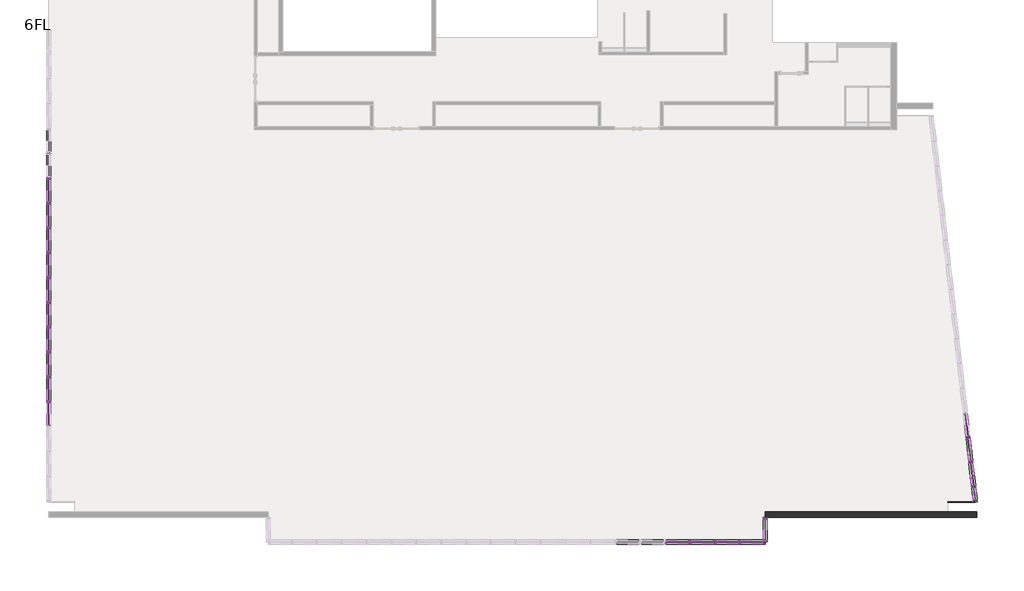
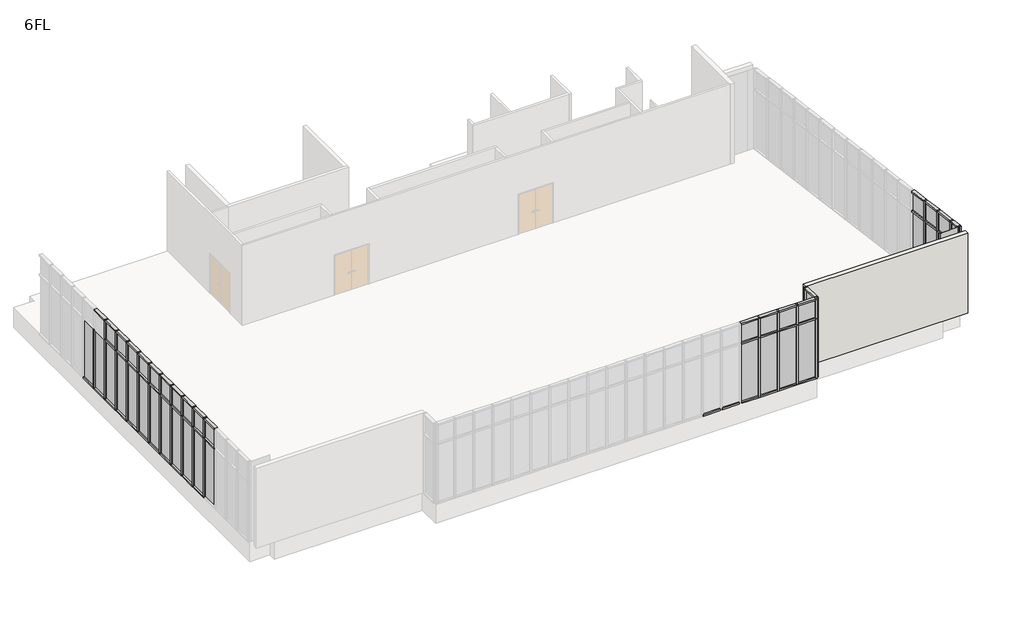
# One storey, part 2 of 4: 101 members, 42 plates, 1 wall.
"""IFC4 building model written with IfcOpenShell, lengths in millimetres."""

from ifc_helpers import new_model, si_unit, frame, origin, place, context, project, spatial, polyline, outline, extrude, transform, mapped, element, save
from components import member_70x150_cdd4dcf9, member_70x150_9a135ce4, member_70x150_66cf63de, member_70x150_26475b18, member_70x150_ad4265bc, member_70x150_e0eddb57, member_70x150_1b280ac3, member_70x150_76429c73, member_70x150_98b0aed0, member_70x150_87b27eb4, plate_d1366ea1, plate_5a60b334, plate_28587fd3, plate_4b01b467, plate_396bcf3c, plate_83f08a3e, plate_de90d239, plate_46ceffe4

model = new_model("IFC4")

# Units and contexts
model_context = context("Model", 3, world=origin())
ifc_project = project(units=[si_unit("LENGTHUNIT", "METRE", prefix="MILLI")], contexts=[model_context])

# Site, building, storey
site = spatial("IfcSite", under=ifc_project)
building = spatial("IfcBuilding", under=site)
storey = spatial("IfcBuildingStorey", under=building, Name="6FL", Elevation=20600.0)

# Members
placement = place(None, origin())
member_70x150_shape = member_70x150_cdd4dcf9(model_context)
element("IfcMember", 1, ObjectType="長方形のマリオン : 70x150", at=placement, inside=storey, context=model_context, shape_type="MappedRepresentation", body=[
    mapped(member_70x150_shape, transform((-5230.9784025, -4550.3131013, 20600.0), x_axis=(-1.0, 0.0, 0.0), y_axis=(0.0, 1.0, 0.0), z_axis=(0.0, 0.0, -1.0))),
])
element("IfcMember", 2, ObjectType="長方形のマリオン : 70x150", at=placement, inside=storey, context=model_context, shape_type="MappedRepresentation", body=[
    mapped(member_70x150_shape, transform((-4330.9784025, -4550.3131013, 20600.0), x_axis=(-1.0, 0.0, 0.0), y_axis=(0.0, 1.0, 0.0), z_axis=(0.0, 0.0, -1.0))),
])
element("IfcMember", 3, ObjectType="長方形のマリオン : 70x150", at=placement, inside=storey, context=model_context, shape_type="MappedRepresentation", body=[
    mapped(member_70x150_shape, transform((-6130.9784025, -4550.3131013, 20600.0), x_axis=(-1.0, 0.0, 0.0), y_axis=(0.0, 1.0, 0.0), z_axis=(0.0, 0.0, -1.0))),
])
element("IfcMember", 4, ObjectType="長方形のマリオン : 70x150", at=placement, inside=storey, context=model_context, shape_type="MappedRepresentation", body=[
    mapped(member_70x150_shape, transform((4147.3841348, -2547.7778257, 20600.0), x_axis=(0.11354659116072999, -0.9935326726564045, 0.0), y_axis=(-0.9935326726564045, -0.11354659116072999, 0.0), z_axis=(0.0, 0.0, -1.0))),
])
element("IfcMember", 5, ObjectType="長方形のマリオン : 70x150", at=placement, inside=storey, context=model_context, shape_type="MappedRepresentation", body=[
    mapped(member_70x150_shape, transform((4045.1922027, -1653.5984203, 20600.0), x_axis=(0.11354659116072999, -0.9935326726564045, 0.0), y_axis=(-0.9935326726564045, -0.11354659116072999, 0.0), z_axis=(0.0, 0.0, -1.0))),
])
element("IfcMember", 6, ObjectType="長方形のマリオン : 70x150", at=placement, inside=storey, context=model_context, shape_type="MappedRepresentation", body=[
    mapped(member_70x150_shape, transform((3943.0002707, -759.4190149, 20600.0), x_axis=(0.11354659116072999, -0.9935326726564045, 0.0), y_axis=(-0.9935326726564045, -0.11354659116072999, 0.0), z_axis=(0.0, 0.0, -1.0))),
])
element("IfcMember", 7, ObjectType="長方形のマリオン : 70x150", at=placement, inside=storey, context=model_context, shape_type="MappedRepresentation", body=[
    mapped(member_70x150_shape, transform((-29345.9784025, 9534.6868987, 20600.0), x_axis=(0.0, 1.0, 0.0), y_axis=(1.0, 0.0, 0.0), z_axis=(0.0, 0.0, -1.0))),
])
element("IfcMember", 8, ObjectType="長方形のマリオン : 70x150", at=placement, inside=storey, context=model_context, shape_type="MappedRepresentation", body=[
    mapped(member_70x150_shape, transform((-29345.9784025, 8634.6868987, 20600.0), x_axis=(0.0, 1.0, 0.0), y_axis=(1.0, 0.0, 0.0), z_axis=(0.0, 0.0, -1.0))),
])
element("IfcMember", 9, ObjectType="長方形のマリオン : 70x150", at=placement, inside=storey, context=model_context, shape_type="MappedRepresentation", body=[
    mapped(member_70x150_shape, transform((-29345.9784025, 7734.6868987, 20600.0), x_axis=(0.0, 1.0, 0.0), y_axis=(1.0, 0.0, 0.0), z_axis=(0.0, 0.0, -1.0))),
])
element("IfcMember", 10, ObjectType="長方形のマリオン : 70x150", at=placement, inside=storey, context=model_context, shape_type="MappedRepresentation", body=[
    mapped(member_70x150_shape, transform((-29345.9784025, 6834.6868987, 20600.0), x_axis=(0.0, 1.0, 0.0), y_axis=(1.0, 0.0, 0.0), z_axis=(0.0, 0.0, -1.0))),
])
element("IfcMember", 11, ObjectType="長方形のマリオン : 70x150", at=placement, inside=storey, context=model_context, shape_type="MappedRepresentation", body=[
    mapped(member_70x150_shape, transform((-29345.9784025, 5934.6868987, 20600.0), x_axis=(0.0, 1.0, 0.0), y_axis=(1.0, 0.0, 0.0), z_axis=(0.0, 0.0, -1.0))),
])
element("IfcMember", 12, ObjectType="長方形のマリオン : 70x150", at=placement, inside=storey, context=model_context, shape_type="MappedRepresentation", body=[
    mapped(member_70x150_shape, transform((-29345.9784025, 5034.6868987, 20600.0), x_axis=(0.0, 1.0, 0.0), y_axis=(1.0, 0.0, 0.0), z_axis=(0.0, 0.0, -1.0))),
])
element("IfcMember", 13, ObjectType="長方形のマリオン : 70x150", at=placement, inside=storey, context=model_context, shape_type="MappedRepresentation", body=[
    mapped(member_70x150_shape, transform((-29345.9784025, 4134.6868987, 20600.0), x_axis=(0.0, 1.0, 0.0), y_axis=(1.0, 0.0, 0.0), z_axis=(0.0, 0.0, -1.0))),
])
element("IfcMember", 14, ObjectType="長方形のマリオン : 70x150", at=placement, inside=storey, context=model_context, shape_type="MappedRepresentation", body=[
    mapped(member_70x150_shape, transform((-29345.9784025, 3234.6868987, 20600.0), x_axis=(0.0, 1.0, 0.0), y_axis=(1.0, 0.0, 0.0), z_axis=(0.0, 0.0, -1.0))),
])
element("IfcMember", 15, ObjectType="長方形のマリオン : 70x150", at=placement, inside=storey, context=model_context, shape_type="MappedRepresentation", body=[
    mapped(member_70x150_shape, transform((-29345.9784025, 2334.6868987, 20600.0), x_axis=(0.0, 1.0, 0.0), y_axis=(1.0, 0.0, 0.0), z_axis=(0.0, 0.0, -1.0))),
])
element("IfcMember", 16, ObjectType="長方形のマリオン : 70x150", at=placement, inside=storey, context=model_context, shape_type="MappedRepresentation", body=[
    mapped(member_70x150_shape, transform((-29345.9784025, 1434.6868987, 20600.0), x_axis=(0.0, 1.0, 0.0), y_axis=(1.0, 0.0, 0.0), z_axis=(0.0, 0.0, -1.0))),
])
element("IfcMember", 17, ObjectType="長方形のマリオン : 70x150", at=placement, inside=storey, context=model_context, shape_type="MappedRepresentation", body=[
    mapped(member_70x150_shape, transform((-29345.9784025, 534.6868987, 20600.0), x_axis=(0.0, 1.0, 0.0), y_axis=(1.0, 0.0, 0.0), z_axis=(0.0, 0.0, -1.0))),
])
member_70x150_2_shape = member_70x150_9a135ce4(model_context)
element("IfcMember", 18, ObjectType="長方形のマリオン : 70x150", at=placement, inside=storey, context=model_context, shape_type="MappedRepresentation", body=[
    mapped(member_70x150_2_shape, transform((-3395.9784025, -4480.3131013, 24600.0), x_axis=(0.0, 0.0, 1.0), y_axis=(-1.0, 0.0, 0.0), z_axis=(0.0, -1.0, 0.0))),
])
member_70x150_3_shape = member_70x150_66cf63de(model_context)
element("IfcMember", 19, ObjectType="長方形のマリオン : 70x150", at=placement, inside=storey, context=model_context, shape_type="MappedRepresentation", body=[
    mapped(member_70x150_3_shape, transform((-3465.9784025, -4550.3131013, 20600.0), x_axis=(0.0, 0.0, -1.0), y_axis=(0.0, 1.0, 0.0), z_axis=(1.0, 0.0, 0.0))),
])
element("IfcMember", 20, ObjectType="長方形のマリオン : 70x150", at=placement, inside=storey, context=model_context, shape_type="MappedRepresentation", body=[
    mapped(member_70x150_3_shape, transform((-7065.9784025, -4550.3131013, 20600.0), x_axis=(0.0, 0.0, -1.0), y_axis=(0.0, 1.0, 0.0), z_axis=(1.0, 0.0, 0.0))),
])
element("IfcMember", 21, ObjectType="長方形のマリオン : 70x150", at=placement, inside=storey, context=model_context, shape_type="MappedRepresentation", body=[
    mapped(member_70x150_3_shape, transform((-7965.9784025, -4550.3131013, 20600.0), x_axis=(0.0, 0.0, -1.0), y_axis=(0.0, 1.0, 0.0), z_axis=(1.0, 0.0, 0.0))),
])
element("IfcMember", 22, ObjectType="長方形のマリオン : 70x150", at=placement, inside=storey, context=model_context, shape_type="MappedRepresentation", body=[
    mapped(member_70x150_3_shape, transform((-4365.9784025, -4550.3131013, 20600.0), x_axis=(0.0, 0.0, -1.0), y_axis=(0.0, 1.0, 0.0), z_axis=(1.0, 0.0, 0.0))),
])
element("IfcMember", 23, ObjectType="長方形のマリオン : 70x150", at=placement, inside=storey, context=model_context, shape_type="MappedRepresentation", body=[
    mapped(member_70x150_3_shape, transform((-6165.9784025, -4550.3131013, 20600.0), x_axis=(0.0, 0.0, -1.0), y_axis=(0.0, 1.0, 0.0), z_axis=(1.0, 0.0, 0.0))),
])
element("IfcMember", 24, ObjectType="長方形のマリオン : 70x150", at=placement, inside=storey, context=model_context, shape_type="MappedRepresentation", body=[
    mapped(member_70x150_3_shape, transform((-5265.9784025, -4550.3131013, 20600.0), x_axis=(0.0, 0.0, -1.0), y_axis=(0.0, 1.0, 0.0), z_axis=(1.0, 0.0, 0.0))),
])
element("IfcMember", 25, ObjectType="長方形のマリオン : 70x150", at=placement, inside=storey, context=model_context, shape_type="MappedRepresentation", body=[
    mapped(member_70x150_3_shape, transform((4049.1663334, -1688.3720639, 20600.0), x_axis=(0.0, 0.0, -1.0), y_axis=(-0.9935326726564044, -0.11354659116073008, 0.0), z_axis=(-0.11354659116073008, 0.9935326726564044, 0.0))),
])
element("IfcMember", 26, ObjectType="長方形のマリオン : 70x150", at=placement, inside=storey, context=model_context, shape_type="MappedRepresentation", body=[
    mapped(member_70x150_3_shape, transform((3946.9744014, -794.1926585, 20600.0), x_axis=(0.0, 0.0, -1.0), y_axis=(-0.9935326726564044, -0.1135465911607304, 0.0), z_axis=(-0.11354659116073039, 0.9935326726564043, 0.0))),
])
element("IfcMember", 27, ObjectType="長方形のマリオン : 70x150", at=placement, inside=storey, context=model_context, shape_type="MappedRepresentation", body=[
    mapped(member_70x150_3_shape, transform((-29345.9784025, 9569.6868987, 20600.0), x_axis=(0.0, 0.0, -1.0), y_axis=(1.0, 0.0, 0.0), z_axis=(0.0, -1.0, 0.0))),
])
element("IfcMember", 28, ObjectType="長方形のマリオン : 70x150", at=placement, inside=storey, context=model_context, shape_type="MappedRepresentation", body=[
    mapped(member_70x150_3_shape, transform((-29345.9784025, 8669.6868987, 20600.0), x_axis=(0.0, 0.0, -1.0), y_axis=(1.0, 0.0, 0.0), z_axis=(0.0, -1.0, 0.0))),
])
element("IfcMember", 29, ObjectType="長方形のマリオン : 70x150", at=placement, inside=storey, context=model_context, shape_type="MappedRepresentation", body=[
    mapped(member_70x150_3_shape, transform((-29345.9784025, 7769.6868987, 20600.0), x_axis=(0.0, 0.0, -1.0), y_axis=(1.0, 0.0, 0.0), z_axis=(0.0, -1.0, 0.0))),
])
element("IfcMember", 30, ObjectType="長方形のマリオン : 70x150", at=placement, inside=storey, context=model_context, shape_type="MappedRepresentation", body=[
    mapped(member_70x150_3_shape, transform((-29345.9784025, 6869.6868987, 20600.0), x_axis=(0.0, 0.0, -1.0), y_axis=(1.0, 0.0, 0.0), z_axis=(0.0, -1.0, 0.0))),
])
element("IfcMember", 31, ObjectType="長方形のマリオン : 70x150", at=placement, inside=storey, context=model_context, shape_type="MappedRepresentation", body=[
    mapped(member_70x150_3_shape, transform((-29345.9784025, 5969.6868987, 20600.0), x_axis=(0.0, 0.0, -1.0), y_axis=(1.0, 0.0, 0.0), z_axis=(0.0, -1.0, 0.0))),
])
element("IfcMember", 32, ObjectType="長方形のマリオン : 70x150", at=placement, inside=storey, context=model_context, shape_type="MappedRepresentation", body=[
    mapped(member_70x150_3_shape, transform((-29345.9784025, 5069.6868987, 20600.0), x_axis=(0.0, 0.0, -1.0), y_axis=(1.0, 0.0, 0.0), z_axis=(0.0, -1.0, 0.0))),
])
element("IfcMember", 33, ObjectType="長方形のマリオン : 70x150", at=placement, inside=storey, context=model_context, shape_type="MappedRepresentation", body=[
    mapped(member_70x150_3_shape, transform((-29345.9784025, 4169.6868987, 20600.0), x_axis=(0.0, 0.0, -1.0), y_axis=(1.0, 0.0, 0.0), z_axis=(0.0, -1.0, 0.0))),
])
element("IfcMember", 34, ObjectType="長方形のマリオン : 70x150", at=placement, inside=storey, context=model_context, shape_type="MappedRepresentation", body=[
    mapped(member_70x150_3_shape, transform((-29345.9784025, 3269.6868987, 20600.0), x_axis=(0.0, 0.0, -1.0), y_axis=(1.0, 0.0, 0.0), z_axis=(0.0, -1.0, 0.0))),
])
element("IfcMember", 35, ObjectType="長方形のマリオン : 70x150", at=placement, inside=storey, context=model_context, shape_type="MappedRepresentation", body=[
    mapped(member_70x150_3_shape, transform((-29345.9784025, 2369.6868987, 20600.0), x_axis=(0.0, 0.0, -1.0), y_axis=(1.0, 0.0, 0.0), z_axis=(0.0, -1.0, 0.0))),
])
element("IfcMember", 36, ObjectType="長方形のマリオン : 70x150", at=placement, inside=storey, context=model_context, shape_type="MappedRepresentation", body=[
    mapped(member_70x150_3_shape, transform((-29345.9784025, 1469.6868987, 20600.0), x_axis=(0.0, 0.0, -1.0), y_axis=(1.0, 0.0, 0.0), z_axis=(0.0, -1.0, 0.0))),
])
element("IfcMember", 37, ObjectType="長方形のマリオン : 70x150", at=placement, inside=storey, context=model_context, shape_type="MappedRepresentation", body=[
    mapped(member_70x150_3_shape, transform((-29345.9784025, 569.6868987, 20600.0), x_axis=(0.0, 0.0, -1.0), y_axis=(1.0, 0.0, 0.0), z_axis=(0.0, -1.0, 0.0))),
])
element("IfcMember", 38, ObjectType="長方形のマリオン : 70x150", at=placement, inside=storey, context=model_context, shape_type="MappedRepresentation", body=[
    mapped(member_70x150_3_shape, transform((-6995.9784025, -4550.3131013, 24600.0), x_axis=(0.0, 0.0, 1.0), y_axis=(0.0, 1.0, 0.0), z_axis=(-1.0, 0.0, 0.0))),
])
element("IfcMember", 39, ObjectType="長方形のマリオン : 70x150", at=placement, inside=storey, context=model_context, shape_type="MappedRepresentation", body=[
    mapped(member_70x150_3_shape, transform((-6095.9784025, -4550.3131013, 24600.0), x_axis=(0.0, 0.0, 1.0), y_axis=(0.0, 1.0, 0.0), z_axis=(-1.0, 0.0, 0.0))),
])
element("IfcMember", 40, ObjectType="長方形のマリオン : 70x150", at=placement, inside=storey, context=model_context, shape_type="MappedRepresentation", body=[
    mapped(member_70x150_3_shape, transform((-5195.9784025, -4550.3131013, 24600.0), x_axis=(0.0, 0.0, 1.0), y_axis=(0.0, 1.0, 0.0), z_axis=(-1.0, 0.0, 0.0))),
])
element("IfcMember", 41, ObjectType="長方形のマリオン : 70x150", at=placement, inside=storey, context=model_context, shape_type="MappedRepresentation", body=[
    mapped(member_70x150_3_shape, transform((-4295.9784025, -4550.3131013, 24600.0), x_axis=(0.0, 0.0, 1.0), y_axis=(0.0, 1.0, 0.0), z_axis=(-1.0, 0.0, 0.0))),
])
element("IfcMember", 42, ObjectType="長方形のマリオン : 70x150", at=placement, inside=storey, context=model_context, shape_type="MappedRepresentation", body=[
    mapped(member_70x150_3_shape, transform((4143.4100041, -2513.0041822, 24600.0), x_axis=(0.0, 0.0, 1.0), y_axis=(-0.9935326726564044, -0.11354659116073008, 0.0), z_axis=(0.11354659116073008, -0.9935326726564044, 0.0))),
])
element("IfcMember", 43, ObjectType="長方形のマリオン : 70x150", at=placement, inside=storey, context=model_context, shape_type="MappedRepresentation", body=[
    mapped(member_70x150_3_shape, transform((4041.2180721, -1618.8247768, 24600.0), x_axis=(0.0, 0.0, 1.0), y_axis=(-0.9935326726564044, -0.1135465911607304, 0.0), z_axis=(0.11354659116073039, -0.9935326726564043, 0.0))),
])
element("IfcMember", 44, ObjectType="長方形のマリオン : 70x150", at=placement, inside=storey, context=model_context, shape_type="MappedRepresentation", body=[
    mapped(member_70x150_3_shape, transform((3939.02614, -724.6453714, 24600.0), x_axis=(0.0, 0.0, 1.0), y_axis=(-0.9935326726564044, -0.11354659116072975, 0.0), z_axis=(0.11354659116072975, -0.9935326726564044, 0.0))),
])
element("IfcMember", 45, ObjectType="長方形のマリオン : 70x150", at=placement, inside=storey, context=model_context, shape_type="MappedRepresentation", body=[
    mapped(member_70x150_3_shape, transform((-29345.9784025, 9499.6868987, 24600.0), x_axis=(0.0, 0.0, 1.0), y_axis=(1.0, 0.0, 0.0), z_axis=(0.0, 1.0, 0.0))),
])
element("IfcMember", 46, ObjectType="長方形のマリオン : 70x150", at=placement, inside=storey, context=model_context, shape_type="MappedRepresentation", body=[
    mapped(member_70x150_3_shape, transform((-29345.9784025, 8599.6868987, 24600.0), x_axis=(0.0, 0.0, 1.0), y_axis=(1.0, 0.0, 0.0), z_axis=(0.0, 1.0, 0.0))),
])
element("IfcMember", 47, ObjectType="長方形のマリオン : 70x150", at=placement, inside=storey, context=model_context, shape_type="MappedRepresentation", body=[
    mapped(member_70x150_3_shape, transform((-29345.9784025, 7699.6868987, 24600.0), x_axis=(0.0, 0.0, 1.0), y_axis=(1.0, 0.0, 0.0), z_axis=(0.0, 1.0, 0.0))),
])
element("IfcMember", 48, ObjectType="長方形のマリオン : 70x150", at=placement, inside=storey, context=model_context, shape_type="MappedRepresentation", body=[
    mapped(member_70x150_3_shape, transform((-29345.9784025, 6799.6868987, 24600.0), x_axis=(0.0, 0.0, 1.0), y_axis=(1.0, 0.0, 0.0), z_axis=(0.0, 1.0, 0.0))),
])
element("IfcMember", 49, ObjectType="長方形のマリオン : 70x150", at=placement, inside=storey, context=model_context, shape_type="MappedRepresentation", body=[
    mapped(member_70x150_3_shape, transform((-29345.9784025, 5899.6868987, 24600.0), x_axis=(0.0, 0.0, 1.0), y_axis=(1.0, 0.0, 0.0), z_axis=(0.0, 1.0, 0.0))),
])
element("IfcMember", 50, ObjectType="長方形のマリオン : 70x150", at=placement, inside=storey, context=model_context, shape_type="MappedRepresentation", body=[
    mapped(member_70x150_3_shape, transform((-29345.9784025, 4999.6868987, 24600.0), x_axis=(0.0, 0.0, 1.0), y_axis=(1.0, 0.0, 0.0), z_axis=(0.0, 1.0, 0.0))),
])
element("IfcMember", 51, ObjectType="長方形のマリオン : 70x150", at=placement, inside=storey, context=model_context, shape_type="MappedRepresentation", body=[
    mapped(member_70x150_3_shape, transform((-29345.9784025, 4099.6868987, 24600.0), x_axis=(0.0, 0.0, 1.0), y_axis=(1.0, 0.0, 0.0), z_axis=(0.0, 1.0, 0.0))),
])
element("IfcMember", 52, ObjectType="長方形のマリオン : 70x150", at=placement, inside=storey, context=model_context, shape_type="MappedRepresentation", body=[
    mapped(member_70x150_3_shape, transform((-29345.9784025, 3199.6868987, 24600.0), x_axis=(0.0, 0.0, 1.0), y_axis=(1.0, 0.0, 0.0), z_axis=(0.0, 1.0, 0.0))),
])
element("IfcMember", 53, ObjectType="長方形のマリオン : 70x150", at=placement, inside=storey, context=model_context, shape_type="MappedRepresentation", body=[
    mapped(member_70x150_3_shape, transform((-29345.9784025, 2299.6868987, 24600.0), x_axis=(0.0, 0.0, 1.0), y_axis=(1.0, 0.0, 0.0), z_axis=(0.0, 1.0, 0.0))),
])
element("IfcMember", 54, ObjectType="長方形のマリオン : 70x150", at=placement, inside=storey, context=model_context, shape_type="MappedRepresentation", body=[
    mapped(member_70x150_3_shape, transform((-29345.9784025, 1399.6868987, 24600.0), x_axis=(0.0, 0.0, 1.0), y_axis=(1.0, 0.0, 0.0), z_axis=(0.0, 1.0, 0.0))),
])
element("IfcMember", 55, ObjectType="長方形のマリオン : 70x150", at=placement, inside=storey, context=model_context, shape_type="MappedRepresentation", body=[
    mapped(member_70x150_3_shape, transform((-29345.9784025, 499.6868987, 24600.0), x_axis=(0.0, 0.0, 1.0), y_axis=(1.0, 0.0, 0.0), z_axis=(0.0, 1.0, 0.0))),
])
element("IfcMember", 56, ObjectType="長方形のマリオン : 70x150", at=placement, inside=storey, context=model_context, shape_type="MappedRepresentation", body=[
    mapped(member_70x150_2_shape, transform((-3395.9784025, -3720.3131013, 20600.0), x_axis=(0.0, 0.0, -1.0), y_axis=(-1.0, 0.0, 0.0), z_axis=(0.0, 1.0, 0.0))),
])
member_70x150_4_shape = member_70x150_26475b18(model_context)
element("IfcMember", 57, ObjectType="長方形のマリオン : 70x150", at=placement, inside=storey, context=model_context, shape_type="MappedRepresentation", body=[
    mapped(member_70x150_4_shape, transform((-6130.9784025, -4550.3131013, 23600.0), x_axis=(-1.0, 0.0, 0.0), y_axis=(0.0, 1.0, 0.0), z_axis=(0.0, 0.0, -1.0))),
])
element("IfcMember", 58, ObjectType="長方形のマリオン : 70x150", at=placement, inside=storey, context=model_context, shape_type="MappedRepresentation", body=[
    mapped(member_70x150_4_shape, transform((-5230.9784025, -4550.3131013, 23600.0), x_axis=(-1.0, 0.0, 0.0), y_axis=(0.0, 1.0, 0.0), z_axis=(0.0, 0.0, -1.0))),
])
element("IfcMember", 59, ObjectType="長方形のマリオン : 70x150", at=placement, inside=storey, context=model_context, shape_type="MappedRepresentation", body=[
    mapped(member_70x150_4_shape, transform((-4330.9784025, -4550.3131013, 23600.0), x_axis=(-1.0, 0.0, 0.0), y_axis=(0.0, 1.0, 0.0), z_axis=(0.0, 0.0, -1.0))),
])
element("IfcMember", 60, ObjectType="長方形のマリオン : 70x150", at=placement, inside=storey, context=model_context, shape_type="MappedRepresentation", body=[
    mapped(member_70x150_4_shape, transform((3943.0002707, -759.4190149, 23600.0), x_axis=(0.11354659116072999, -0.9935326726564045, 0.0), y_axis=(-0.9935326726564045, -0.11354659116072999, 0.0), z_axis=(0.0, 0.0, -1.0))),
])
element("IfcMember", 61, ObjectType="長方形のマリオン : 70x150", at=placement, inside=storey, context=model_context, shape_type="MappedRepresentation", body=[
    mapped(member_70x150_4_shape, transform((4045.1922027, -1653.5984203, 23600.0), x_axis=(0.11354659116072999, -0.9935326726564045, 0.0), y_axis=(-0.9935326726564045, -0.11354659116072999, 0.0), z_axis=(0.0, 0.0, -1.0))),
])
element("IfcMember", 62, ObjectType="長方形のマリオン : 70x150", at=placement, inside=storey, context=model_context, shape_type="MappedRepresentation", body=[
    mapped(member_70x150_4_shape, transform((4147.3841348, -2547.7778257, 23600.0), x_axis=(0.11354659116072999, -0.9935326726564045, 0.0), y_axis=(-0.9935326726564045, -0.11354659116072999, 0.0), z_axis=(0.0, 0.0, -1.0))),
])
element("IfcMember", 63, ObjectType="長方形のマリオン : 70x150", at=placement, inside=storey, context=model_context, shape_type="MappedRepresentation", body=[
    mapped(member_70x150_4_shape, transform((-29345.9784025, 8634.6868987, 23600.0), x_axis=(0.0, 1.0, 0.0), y_axis=(1.0, 0.0, 0.0), z_axis=(0.0, 0.0, -1.0))),
])
element("IfcMember", 64, ObjectType="長方形のマリオン : 70x150", at=placement, inside=storey, context=model_context, shape_type="MappedRepresentation", body=[
    mapped(member_70x150_4_shape, transform((-29345.9784025, 7734.6868987, 23600.0), x_axis=(0.0, 1.0, 0.0), y_axis=(1.0, 0.0, 0.0), z_axis=(0.0, 0.0, -1.0))),
])
element("IfcMember", 65, ObjectType="長方形のマリオン : 70x150", at=placement, inside=storey, context=model_context, shape_type="MappedRepresentation", body=[
    mapped(member_70x150_4_shape, transform((-29345.9784025, 6834.6868987, 23600.0), x_axis=(0.0, 1.0, 0.0), y_axis=(1.0, 0.0, 0.0), z_axis=(0.0, 0.0, -1.0))),
])
element("IfcMember", 66, ObjectType="長方形のマリオン : 70x150", at=placement, inside=storey, context=model_context, shape_type="MappedRepresentation", body=[
    mapped(member_70x150_4_shape, transform((-29345.9784025, 5934.6868987, 23600.0), x_axis=(0.0, 1.0, 0.0), y_axis=(1.0, 0.0, 0.0), z_axis=(0.0, 0.0, -1.0))),
])
element("IfcMember", 67, ObjectType="長方形のマリオン : 70x150", at=placement, inside=storey, context=model_context, shape_type="MappedRepresentation", body=[
    mapped(member_70x150_4_shape, transform((-29345.9784025, 5034.6868987, 23600.0), x_axis=(0.0, 1.0, 0.0), y_axis=(1.0, 0.0, 0.0), z_axis=(0.0, 0.0, -1.0))),
])
element("IfcMember", 68, ObjectType="長方形のマリオン : 70x150", at=placement, inside=storey, context=model_context, shape_type="MappedRepresentation", body=[
    mapped(member_70x150_4_shape, transform((-29345.9784025, 4134.6868987, 23600.0), x_axis=(0.0, 1.0, 0.0), y_axis=(1.0, 0.0, 0.0), z_axis=(0.0, 0.0, -1.0))),
])
element("IfcMember", 69, ObjectType="長方形のマリオン : 70x150", at=placement, inside=storey, context=model_context, shape_type="MappedRepresentation", body=[
    mapped(member_70x150_4_shape, transform((-29345.9784025, 3234.6868987, 23600.0), x_axis=(0.0, 1.0, 0.0), y_axis=(1.0, 0.0, 0.0), z_axis=(0.0, 0.0, -1.0))),
])
element("IfcMember", 70, ObjectType="長方形のマリオン : 70x150", at=placement, inside=storey, context=model_context, shape_type="MappedRepresentation", body=[
    mapped(member_70x150_4_shape, transform((-29345.9784025, 2334.6868987, 23600.0), x_axis=(0.0, 1.0, 0.0), y_axis=(1.0, 0.0, 0.0), z_axis=(0.0, 0.0, -1.0))),
])
element("IfcMember", 71, ObjectType="長方形のマリオン : 70x150", at=placement, inside=storey, context=model_context, shape_type="MappedRepresentation", body=[
    mapped(member_70x150_4_shape, transform((-29345.9784025, 1434.6868987, 23600.0), x_axis=(0.0, 1.0, 0.0), y_axis=(1.0, 0.0, 0.0), z_axis=(0.0, 0.0, -1.0))),
])
element("IfcMember", 72, ObjectType="長方形のマリオン : 70x150", at=placement, inside=storey, context=model_context, shape_type="MappedRepresentation", body=[
    mapped(member_70x150_4_shape, transform((-29345.9784025, 534.6868987, 23600.0), x_axis=(0.0, 1.0, 0.0), y_axis=(1.0, 0.0, 0.0), z_axis=(0.0, 0.0, -1.0))),
])
member_70x150_5_shape = member_70x150_ad4265bc(model_context)
element("IfcMember", 73, ObjectType="長方形のマリオン : 70x150", at=placement, inside=storey, context=model_context, shape_type="MappedRepresentation", body=[
    mapped(member_70x150_5_shape, transform((-5195.9784025, -4550.3131013, 23600.0), x_axis=(0.0, 0.0, 1.0), y_axis=(0.0, 1.0, 0.0), z_axis=(-1.0, 0.0, 0.0))),
])
element("IfcMember", 74, ObjectType="長方形のマリオン : 70x150", at=placement, inside=storey, context=model_context, shape_type="MappedRepresentation", body=[
    mapped(member_70x150_5_shape, transform((-6995.9784025, -4550.3131013, 23600.0), x_axis=(0.0, 0.0, 1.0), y_axis=(0.0, 1.0, 0.0), z_axis=(-1.0, 0.0, 0.0))),
])
element("IfcMember", 75, ObjectType="長方形のマリオン : 70x150", at=placement, inside=storey, context=model_context, shape_type="MappedRepresentation", body=[
    mapped(member_70x150_5_shape, transform((-6095.9784025, -4550.3131013, 23600.0), x_axis=(0.0, 0.0, 1.0), y_axis=(0.0, 1.0, 0.0), z_axis=(-1.0, 0.0, 0.0))),
])
element("IfcMember", 76, ObjectType="長方形のマリオン : 70x150", at=placement, inside=storey, context=model_context, shape_type="MappedRepresentation", body=[
    mapped(member_70x150_5_shape, transform((-4295.9784025, -4550.3131013, 23600.0), x_axis=(0.0, 0.0, 1.0), y_axis=(0.0, 1.0, 0.0), z_axis=(-1.0, 0.0, 0.0))),
])
element("IfcMember", 77, ObjectType="長方形のマリオン : 70x150", at=placement, inside=storey, context=model_context, shape_type="MappedRepresentation", body=[
    mapped(member_70x150_5_shape, transform((4143.4100041, -2513.0041822, 23600.0), x_axis=(0.0, 0.0, 1.0), y_axis=(-0.9935326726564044, -0.11354659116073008, 0.0), z_axis=(0.11354659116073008, -0.9935326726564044, 0.0))),
])
element("IfcMember", 78, ObjectType="長方形のマリオン : 70x150", at=placement, inside=storey, context=model_context, shape_type="MappedRepresentation", body=[
    mapped(member_70x150_5_shape, transform((4041.2180721, -1618.8247768, 23600.0), x_axis=(0.0, 0.0, 1.0), y_axis=(-0.9935326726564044, -0.1135465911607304, 0.0), z_axis=(0.11354659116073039, -0.9935326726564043, 0.0))),
])
element("IfcMember", 79, ObjectType="長方形のマリオン : 70x150", at=placement, inside=storey, context=model_context, shape_type="MappedRepresentation", body=[
    mapped(member_70x150_5_shape, transform((3939.02614, -724.6453714, 23600.0), x_axis=(0.0, 0.0, 1.0), y_axis=(-0.9935326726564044, -0.11354659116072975, 0.0), z_axis=(0.11354659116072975, -0.9935326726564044, 0.0))),
])
element("IfcMember", 80, ObjectType="長方形のマリオン : 70x150", at=placement, inside=storey, context=model_context, shape_type="MappedRepresentation", body=[
    mapped(member_70x150_5_shape, transform((-29345.9784025, 2299.6868987, 23600.0), x_axis=(0.0, 0.0, 1.0), y_axis=(1.0, 0.0, 0.0), z_axis=(0.0, 1.0, 0.0))),
])
element("IfcMember", 81, ObjectType="長方形のマリオン : 70x150", at=placement, inside=storey, context=model_context, shape_type="MappedRepresentation", body=[
    mapped(member_70x150_5_shape, transform((-29345.9784025, 499.6868987, 23600.0), x_axis=(0.0, 0.0, 1.0), y_axis=(1.0, 0.0, 0.0), z_axis=(0.0, 1.0, 0.0))),
])
element("IfcMember", 82, ObjectType="長方形のマリオン : 70x150", at=placement, inside=storey, context=model_context, shape_type="MappedRepresentation", body=[
    mapped(member_70x150_5_shape, transform((-29345.9784025, 3199.6868987, 23600.0), x_axis=(0.0, 0.0, 1.0), y_axis=(1.0, 0.0, 0.0), z_axis=(0.0, 1.0, 0.0))),
])
element("IfcMember", 83, ObjectType="長方形のマリオン : 70x150", at=placement, inside=storey, context=model_context, shape_type="MappedRepresentation", body=[
    mapped(member_70x150_5_shape, transform((-29345.9784025, 5899.6868987, 23600.0), x_axis=(0.0, 0.0, 1.0), y_axis=(1.0, 0.0, 0.0), z_axis=(0.0, 1.0, 0.0))),
])
element("IfcMember", 84, ObjectType="長方形のマリオン : 70x150", at=placement, inside=storey, context=model_context, shape_type="MappedRepresentation", body=[
    mapped(member_70x150_5_shape, transform((-29345.9784025, 7699.6868987, 23600.0), x_axis=(0.0, 0.0, 1.0), y_axis=(1.0, 0.0, 0.0), z_axis=(0.0, 1.0, 0.0))),
])
element("IfcMember", 85, ObjectType="長方形のマリオン : 70x150", at=placement, inside=storey, context=model_context, shape_type="MappedRepresentation", body=[
    mapped(member_70x150_5_shape, transform((-29345.9784025, 4099.6868987, 23600.0), x_axis=(0.0, 0.0, 1.0), y_axis=(1.0, 0.0, 0.0), z_axis=(0.0, 1.0, 0.0))),
])
element("IfcMember", 86, ObjectType="長方形のマリオン : 70x150", at=placement, inside=storey, context=model_context, shape_type="MappedRepresentation", body=[
    mapped(member_70x150_5_shape, transform((-29345.9784025, 1399.6868987, 23600.0), x_axis=(0.0, 0.0, 1.0), y_axis=(1.0, 0.0, 0.0), z_axis=(0.0, 1.0, 0.0))),
])
element("IfcMember", 87, ObjectType="長方形のマリオン : 70x150", at=placement, inside=storey, context=model_context, shape_type="MappedRepresentation", body=[
    mapped(member_70x150_5_shape, transform((-29345.9784025, 8599.6868987, 23600.0), x_axis=(0.0, 0.0, 1.0), y_axis=(1.0, 0.0, 0.0), z_axis=(0.0, 1.0, 0.0))),
])
element("IfcMember", 88, ObjectType="長方形のマリオン : 70x150", at=placement, inside=storey, context=model_context, shape_type="MappedRepresentation", body=[
    mapped(member_70x150_5_shape, transform((-29345.9784025, 4999.6868987, 23600.0), x_axis=(0.0, 0.0, 1.0), y_axis=(1.0, 0.0, 0.0), z_axis=(0.0, 1.0, 0.0))),
])
element("IfcMember", 89, ObjectType="長方形のマリオン : 70x150", at=placement, inside=storey, context=model_context, shape_type="MappedRepresentation", body=[
    mapped(member_70x150_5_shape, transform((-29345.9784025, 6799.6868987, 23600.0), x_axis=(0.0, 0.0, 1.0), y_axis=(1.0, 0.0, 0.0), z_axis=(0.0, 1.0, 0.0))),
])
member_70x150_6_shape = member_70x150_e0eddb57(model_context)
element("IfcMember", 90, ObjectType="長方形のマリオン : 70x150", at=placement, inside=storey, context=model_context, shape_type="MappedRepresentation", body=[
    mapped(member_70x150_6_shape, transform((-3395.9784025, -4480.3131013, 23600.0), x_axis=(0.0, 0.0, 1.0), y_axis=(-1.0, 0.0, 0.0), z_axis=(0.0, -1.0, 0.0))),
])
member_70x150_7_shape = member_70x150_1b280ac3(model_context)
element("IfcMember", 91, ObjectType="長方形のマリオン : 70x150", at=placement, inside=storey, context=model_context, shape_type="MappedRepresentation", body=[
    mapped(member_70x150_7_shape, transform((4210.5310234, -3100.3131013, 20600.0), x_axis=(0.11354659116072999, -0.9935326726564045, 0.0), y_axis=(-0.9935326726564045, -0.11354659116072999, 0.0), z_axis=(0.0, 0.0, -1.0))),
])
element("IfcMember", 92, ObjectType="長方形のマリオン : 70x150", at=placement, inside=storey, context=model_context, shape_type="MappedRepresentation", body=[
    mapped(member_70x150_7_shape, transform((-3395.9784025, -4550.3131013, 20600.0), x_axis=(0.0, -1.0, 0.0), y_axis=(-1.0, 0.0, 0.0), z_axis=(0.0, 0.0, -1.0))),
])
member_70x150_8_shape = member_70x150_76429c73(model_context)
element("IfcMember", 93, ObjectType="長方形のマリオン : 70x150", at=placement, inside=storey, context=model_context, shape_type="MappedRepresentation", body=[
    mapped(member_70x150_8_shape, transform((-3395.9784025, -4550.3131013, 24600.0), x_axis=(1.0, 0.0, 0.0), y_axis=(0.0, 1.0, 0.0), z_axis=(0.0, 0.0, 1.0))),
])
element("IfcMember", 94, ObjectType="長方形のマリオン : 70x150", at=placement, inside=storey, context=model_context, shape_type="MappedRepresentation", body=[
    mapped(member_70x150_8_shape, transform((-3395.9784025, -3650.3131013, 24600.0), x_axis=(0.0, 1.0, 0.0), y_axis=(-1.0, 0.0, 0.0), z_axis=(0.0, 0.0, 1.0))),
])
element("IfcMember", 95, ObjectType="長方形のマリオン : 70x150", at=placement, inside=storey, context=model_context, shape_type="MappedRepresentation", body=[
    mapped(member_70x150_8_shape, transform((4210.5310234, -3100.3131013, 23600.0), x_axis=(0.11354659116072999, -0.9935326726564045, 0.0), y_axis=(-0.9935326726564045, -0.11354659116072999, 0.0), z_axis=(0.0, 0.0, -1.0))),
])
element("IfcMember", 96, ObjectType="長方形のマリオン : 70x150", at=placement, inside=storey, context=model_context, shape_type="MappedRepresentation", body=[
    mapped(member_70x150_8_shape, transform((-3395.9784025, -4550.3131013, 23600.0), x_axis=(0.0, -1.0, 0.0), y_axis=(-1.0, 0.0, 0.0), z_axis=(0.0, 0.0, -1.0))),
])
element("IfcMember", 97, ObjectType="長方形のマリオン : 70x150", at=placement, inside=storey, context=model_context, shape_type="MappedRepresentation", body=[
    mapped(member_70x150_7_shape, transform((-3395.9784025, -4550.3131013, 23600.0), x_axis=(1.0, 0.0, 0.0), y_axis=(0.0, 1.0, 0.0), z_axis=(0.0, 0.0, 1.0))),
])
element("IfcMember", 98, ObjectType="長方形のマリオン : 70x150", at=placement, inside=storey, context=model_context, shape_type="MappedRepresentation", body=[
    mapped(member_70x150_7_shape, transform((-3395.9784025, -3650.3131013, 23600.0), x_axis=(0.0, 1.0, 0.0), y_axis=(-1.0, 0.0, 0.0), z_axis=(0.0, 0.0, 1.0))),
])
member_70x150_9_shape = member_70x150_98b0aed0(model_context)
element("IfcMember", 99, ObjectType="長方形のマリオン : 70x150", at=placement, inside=storey, context=model_context, shape_type="MappedRepresentation", body=[
    mapped(member_70x150_9_shape, transform((4202.582762, -3030.7658142, 24600.0), x_axis=(0.0, 0.0, 1.0), y_axis=(-0.9935326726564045, -0.11354659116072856, 0.0), z_axis=(0.11354659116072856, -0.9935326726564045, 0.0))),
])
element("IfcMember", 100, ObjectType="長方形のマリオン : 70x150", at=placement, inside=storey, context=model_context, shape_type="MappedRepresentation", body=[
    mapped(member_70x150_9_shape, transform((4151.3582655, -2582.5514692, 20600.0), x_axis=(0.0, 0.0, -1.0), y_axis=(-0.9935326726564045, -0.11354659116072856, 0.0), z_axis=(-0.11354659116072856, 0.9935326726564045, 0.0))),
])
member_70x150_10_shape = member_70x150_87b27eb4(model_context)
element("IfcMember", 101, ObjectType="長方形のマリオン : 70x150", at=placement, inside=storey, context=model_context, shape_type="MappedRepresentation", body=[
    mapped(member_70x150_10_shape, transform((4202.582762, -3030.7658142, 23600.0), x_axis=(0.0, 0.0, 1.0), y_axis=(-0.9935326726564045, -0.11354659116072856, 0.0), z_axis=(0.11354659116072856, -0.9935326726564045, 0.0))),
])

# Plates
plate_shape = plate_d1366ea1(model_context)
element("IfcPlate", 102, ObjectType="システム パネル : 標準", at=placement, inside=storey, context=model_context, shape_type="MappedRepresentation", body=[
    mapped(plate_shape, transform((3760.5310234, -3100.3131013, 20600.0), x_axis=(-1.0, 0.0, 0.0), y_axis=(0.0, -1.0, 0.0), z_axis=(0.0, 0.0, 1.0))),
])
plate_2_shape = plate_5a60b334(model_context)
element("IfcPlate", 103, ObjectType="システム パネル : 標準", at=placement, inside=storey, context=model_context, shape_type="MappedRepresentation", body=[
    mapped(plate_2_shape, transform((3257.2763105, -3100.3131013, 20600.0), x_axis=(-1.0, 0.0, 0.0), y_axis=(0.0, -1.0, 0.0), z_axis=(0.0, 0.0, 1.0))),
])
plate_3_shape = plate_28587fd3(model_context)
element("IfcPlate", 104, ObjectType="システム パネル : 標準", at=placement, inside=storey, context=model_context, shape_type="MappedRepresentation", body=[
    mapped(plate_3_shape, transform((3891.9043047, -312.3293122, 20670.0), x_axis=(0.11354659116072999, -0.9935326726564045, 0.0), y_axis=(0.9935326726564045, 0.11354659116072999, 0.0), z_axis=(0.0, 0.0, 1.0))),
])
element("IfcPlate", 105, ObjectType="システム パネル : 標準", at=placement, inside=storey, context=model_context, shape_type="MappedRepresentation", body=[
    mapped(plate_3_shape, transform((3994.0962367, -1206.5087176, 20670.0), x_axis=(0.11354659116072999, -0.9935326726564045, 0.0), y_axis=(0.9935326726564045, 0.11354659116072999, 0.0), z_axis=(0.0, 0.0, 1.0))),
])
element("IfcPlate", 106, ObjectType="システム パネル : 標準", at=placement, inside=storey, context=model_context, shape_type="MappedRepresentation", body=[
    mapped(plate_3_shape, transform((4096.2881688, -2100.688123, 20670.0), x_axis=(0.11354659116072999, -0.9935326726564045, 0.0), y_axis=(0.9935326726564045, 0.11354659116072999, 0.0), z_axis=(0.0, 0.0, 1.0))),
])
element("IfcPlate", 107, ObjectType="システム パネル : 標準", at=placement, inside=storey, context=model_context, shape_type="MappedRepresentation", body=[
    mapped(plate_3_shape, transform((-29345.9784025, 84.6868987, 20670.0), x_axis=(0.0, 1.0, 0.0), y_axis=(-1.0, 0.0, 0.0), z_axis=(0.0, 0.0, 1.0))),
])
element("IfcPlate", 108, ObjectType="システム パネル : 標準", at=placement, inside=storey, context=model_context, shape_type="MappedRepresentation", body=[
    mapped(plate_3_shape, transform((-29345.9784025, 984.6868987, 20670.0), x_axis=(0.0, 1.0, 0.0), y_axis=(-1.0, 0.0, 0.0), z_axis=(0.0, 0.0, 1.0))),
])
element("IfcPlate", 109, ObjectType="システム パネル : 標準", at=placement, inside=storey, context=model_context, shape_type="MappedRepresentation", body=[
    mapped(plate_3_shape, transform((-29345.9784025, 1884.6868987, 20670.0), x_axis=(0.0, 1.0, 0.0), y_axis=(-1.0, 0.0, 0.0), z_axis=(0.0, 0.0, 1.0))),
])
element("IfcPlate", 110, ObjectType="システム パネル : 標準", at=placement, inside=storey, context=model_context, shape_type="MappedRepresentation", body=[
    mapped(plate_3_shape, transform((-29345.9784025, 2784.6868987, 20670.0), x_axis=(0.0, 1.0, 0.0), y_axis=(-1.0, 0.0, 0.0), z_axis=(0.0, 0.0, 1.0))),
])
element("IfcPlate", 111, ObjectType="システム パネル : 標準", at=placement, inside=storey, context=model_context, shape_type="MappedRepresentation", body=[
    mapped(plate_3_shape, transform((-29345.9784025, 3684.6868987, 20670.0), x_axis=(0.0, 1.0, 0.0), y_axis=(-1.0, 0.0, 0.0), z_axis=(0.0, 0.0, 1.0))),
])
element("IfcPlate", 112, ObjectType="システム パネル : 標準", at=placement, inside=storey, context=model_context, shape_type="MappedRepresentation", body=[
    mapped(plate_3_shape, transform((-29345.9784025, 4584.6868987, 20670.0), x_axis=(0.0, 1.0, 0.0), y_axis=(-1.0, 0.0, 0.0), z_axis=(0.0, 0.0, 1.0))),
])
element("IfcPlate", 113, ObjectType="システム パネル : 標準", at=placement, inside=storey, context=model_context, shape_type="MappedRepresentation", body=[
    mapped(plate_3_shape, transform((-29345.9784025, 5484.6868987, 20670.0), x_axis=(0.0, 1.0, 0.0), y_axis=(-1.0, 0.0, 0.0), z_axis=(0.0, 0.0, 1.0))),
])
element("IfcPlate", 114, ObjectType="システム パネル : 標準", at=placement, inside=storey, context=model_context, shape_type="MappedRepresentation", body=[
    mapped(plate_3_shape, transform((-29345.9784025, 6384.6868987, 20670.0), x_axis=(0.0, 1.0, 0.0), y_axis=(-1.0, 0.0, 0.0), z_axis=(0.0, 0.0, 1.0))),
])
element("IfcPlate", 115, ObjectType="システム パネル : 標準", at=placement, inside=storey, context=model_context, shape_type="MappedRepresentation", body=[
    mapped(plate_3_shape, transform((-29345.9784025, 7284.6868987, 20670.0), x_axis=(0.0, 1.0, 0.0), y_axis=(-1.0, 0.0, 0.0), z_axis=(0.0, 0.0, 1.0))),
])
element("IfcPlate", 116, ObjectType="システム パネル : 標準", at=placement, inside=storey, context=model_context, shape_type="MappedRepresentation", body=[
    mapped(plate_3_shape, transform((-29345.9784025, 8184.6868987, 20670.0), x_axis=(0.0, 1.0, 0.0), y_axis=(-1.0, 0.0, 0.0), z_axis=(0.0, 0.0, 1.0))),
])
element("IfcPlate", 117, ObjectType="システム パネル : 標準", at=placement, inside=storey, context=model_context, shape_type="MappedRepresentation", body=[
    mapped(plate_3_shape, transform((-29345.9784025, 9084.6868987, 20670.0), x_axis=(0.0, 1.0, 0.0), y_axis=(-1.0, 0.0, 0.0), z_axis=(0.0, 0.0, 1.0))),
])
element("IfcPlate", 118, ObjectType="システム パネル : 標準", at=placement, inside=storey, context=model_context, shape_type="MappedRepresentation", body=[
    mapped(plate_3_shape, transform((-29345.9784025, 9984.6868987, 20670.0), x_axis=(0.0, 1.0, 0.0), y_axis=(-1.0, 0.0, 0.0), z_axis=(0.0, 0.0, 1.0))),
])
element("IfcPlate", 119, ObjectType="システム パネル : 標準", at=placement, inside=storey, context=model_context, shape_type="MappedRepresentation", body=[
    mapped(plate_3_shape, transform((-3880.9784025, -4550.3131013, 20670.0), x_axis=(-1.0, 0.0, 0.0), y_axis=(0.0, -1.0, 0.0), z_axis=(0.0, 0.0, 1.0))),
])
element("IfcPlate", 120, ObjectType="システム パネル : 標準", at=placement, inside=storey, context=model_context, shape_type="MappedRepresentation", body=[
    mapped(plate_3_shape, transform((-4780.9784025, -4550.3131013, 20670.0), x_axis=(-1.0, 0.0, 0.0), y_axis=(0.0, -1.0, 0.0), z_axis=(0.0, 0.0, 1.0))),
])
element("IfcPlate", 121, ObjectType="システム パネル : 標準", at=placement, inside=storey, context=model_context, shape_type="MappedRepresentation", body=[
    mapped(plate_3_shape, transform((-5680.9784025, -4550.3131013, 20670.0), x_axis=(-1.0, 0.0, 0.0), y_axis=(0.0, -1.0, 0.0), z_axis=(0.0, 0.0, 1.0))),
])
element("IfcPlate", 122, ObjectType="システム パネル : 標準", at=placement, inside=storey, context=model_context, shape_type="MappedRepresentation", body=[
    mapped(plate_3_shape, transform((-6580.9784025, -4550.3131013, 20670.0), x_axis=(-1.0, 0.0, 0.0), y_axis=(0.0, -1.0, 0.0), z_axis=(0.0, 0.0, 1.0))),
])
plate_4_shape = plate_4b01b467(model_context)
element("IfcPlate", 123, ObjectType="システム パネル : 標準", at=placement, inside=storey, context=model_context, shape_type="MappedRepresentation", body=[
    mapped(plate_4_shape, transform((-3395.9784025, -4100.3131013, 20670.0), x_axis=(0.0, -1.0, 0.0), y_axis=(1.0, 0.0, 0.0), z_axis=(0.0, 0.0, 1.0))),
])
plate_5_shape = plate_396bcf3c(model_context)
element("IfcPlate", 124, ObjectType="システム パネル : 標準", at=placement, inside=storey, context=model_context, shape_type="MappedRepresentation", body=[
    mapped(plate_5_shape, transform((-3880.9784025, -4550.3131013, 23635.0), x_axis=(-1.0, 0.0, 0.0), y_axis=(0.0, -1.0, 0.0), z_axis=(0.0, 0.0, 1.0))),
])
element("IfcPlate", 125, ObjectType="システム パネル : 標準", at=placement, inside=storey, context=model_context, shape_type="MappedRepresentation", body=[
    mapped(plate_5_shape, transform((-4780.9784025, -4550.3131013, 23635.0), x_axis=(-1.0, 0.0, 0.0), y_axis=(0.0, -1.0, 0.0), z_axis=(0.0, 0.0, 1.0))),
])
element("IfcPlate", 126, ObjectType="システム パネル : 標準", at=placement, inside=storey, context=model_context, shape_type="MappedRepresentation", body=[
    mapped(plate_5_shape, transform((-5680.9784025, -4550.3131013, 23635.0), x_axis=(-1.0, 0.0, 0.0), y_axis=(0.0, -1.0, 0.0), z_axis=(0.0, 0.0, 1.0))),
])
element("IfcPlate", 127, ObjectType="システム パネル : 標準", at=placement, inside=storey, context=model_context, shape_type="MappedRepresentation", body=[
    mapped(plate_5_shape, transform((-6580.9784025, -4550.3131013, 23635.0), x_axis=(-1.0, 0.0, 0.0), y_axis=(0.0, -1.0, 0.0), z_axis=(0.0, 0.0, 1.0))),
])
element("IfcPlate", 128, ObjectType="システム パネル : 標準", at=placement, inside=storey, context=model_context, shape_type="MappedRepresentation", body=[
    mapped(plate_5_shape, transform((3891.9043047, -312.3293122, 23635.0), x_axis=(0.11354659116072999, -0.9935326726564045, 0.0), y_axis=(0.9935326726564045, 0.11354659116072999, 0.0), z_axis=(0.0, 0.0, 1.0))),
])
element("IfcPlate", 129, ObjectType="システム パネル : 標準", at=placement, inside=storey, context=model_context, shape_type="MappedRepresentation", body=[
    mapped(plate_5_shape, transform((3994.0962367, -1206.5087176, 23635.0), x_axis=(0.11354659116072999, -0.9935326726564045, 0.0), y_axis=(0.9935326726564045, 0.11354659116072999, 0.0), z_axis=(0.0, 0.0, 1.0))),
])
element("IfcPlate", 130, ObjectType="システム パネル : 標準", at=placement, inside=storey, context=model_context, shape_type="MappedRepresentation", body=[
    mapped(plate_5_shape, transform((4096.2881688, -2100.688123, 23635.0), x_axis=(0.11354659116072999, -0.9935326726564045, 0.0), y_axis=(0.9935326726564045, 0.11354659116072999, 0.0), z_axis=(0.0, 0.0, 1.0))),
])
element("IfcPlate", 131, ObjectType="システム パネル : 標準", at=placement, inside=storey, context=model_context, shape_type="MappedRepresentation", body=[
    mapped(plate_5_shape, transform((-29345.9784025, 84.6868987, 23635.0), x_axis=(0.0, 1.0, 0.0), y_axis=(-1.0, 0.0, 0.0), z_axis=(0.0, 0.0, 1.0))),
])
element("IfcPlate", 132, ObjectType="システム パネル : 標準", at=placement, inside=storey, context=model_context, shape_type="MappedRepresentation", body=[
    mapped(plate_5_shape, transform((-29345.9784025, 984.6868987, 23635.0), x_axis=(0.0, 1.0, 0.0), y_axis=(-1.0, 0.0, 0.0), z_axis=(0.0, 0.0, 1.0))),
])
element("IfcPlate", 133, ObjectType="システム パネル : 標準", at=placement, inside=storey, context=model_context, shape_type="MappedRepresentation", body=[
    mapped(plate_5_shape, transform((-29345.9784025, 1884.6868987, 23635.0), x_axis=(0.0, 1.0, 0.0), y_axis=(-1.0, 0.0, 0.0), z_axis=(0.0, 0.0, 1.0))),
])
element("IfcPlate", 134, ObjectType="システム パネル : 標準", at=placement, inside=storey, context=model_context, shape_type="MappedRepresentation", body=[
    mapped(plate_5_shape, transform((-29345.9784025, 2784.6868987, 23635.0), x_axis=(0.0, 1.0, 0.0), y_axis=(-1.0, 0.0, 0.0), z_axis=(0.0, 0.0, 1.0))),
])
element("IfcPlate", 135, ObjectType="システム パネル : 標準", at=placement, inside=storey, context=model_context, shape_type="MappedRepresentation", body=[
    mapped(plate_5_shape, transform((-29345.9784025, 3684.6868987, 23635.0), x_axis=(0.0, 1.0, 0.0), y_axis=(-1.0, 0.0, 0.0), z_axis=(0.0, 0.0, 1.0))),
])
element("IfcPlate", 136, ObjectType="システム パネル : 標準", at=placement, inside=storey, context=model_context, shape_type="MappedRepresentation", body=[
    mapped(plate_5_shape, transform((-29345.9784025, 4584.6868987, 23635.0), x_axis=(0.0, 1.0, 0.0), y_axis=(-1.0, 0.0, 0.0), z_axis=(0.0, 0.0, 1.0))),
])
element("IfcPlate", 137, ObjectType="システム パネル : 標準", at=placement, inside=storey, context=model_context, shape_type="MappedRepresentation", body=[
    mapped(plate_5_shape, transform((-29345.9784025, 5484.6868987, 23635.0), x_axis=(0.0, 1.0, 0.0), y_axis=(-1.0, 0.0, 0.0), z_axis=(0.0, 0.0, 1.0))),
])
element("IfcPlate", 138, ObjectType="システム パネル : 標準", at=placement, inside=storey, context=model_context, shape_type="MappedRepresentation", body=[
    mapped(plate_5_shape, transform((-29345.9784025, 6384.6868987, 23635.0), x_axis=(0.0, 1.0, 0.0), y_axis=(-1.0, 0.0, 0.0), z_axis=(0.0, 0.0, 1.0))),
])
element("IfcPlate", 139, ObjectType="システム パネル : 標準", at=placement, inside=storey, context=model_context, shape_type="MappedRepresentation", body=[
    mapped(plate_5_shape, transform((-29345.9784025, 7284.6868987, 23635.0), x_axis=(0.0, 1.0, 0.0), y_axis=(-1.0, 0.0, 0.0), z_axis=(0.0, 0.0, 1.0))),
])
element("IfcPlate", 140, ObjectType="システム パネル : 標準", at=placement, inside=storey, context=model_context, shape_type="MappedRepresentation", body=[
    mapped(plate_5_shape, transform((-29345.9784025, 8184.6868987, 23635.0), x_axis=(0.0, 1.0, 0.0), y_axis=(-1.0, 0.0, 0.0), z_axis=(0.0, 0.0, 1.0))),
])
plate_6_shape = plate_83f08a3e(model_context)
element("IfcPlate", 141, ObjectType="システム パネル : 標準", at=placement, inside=storey, context=model_context, shape_type="MappedRepresentation", body=[
    mapped(plate_6_shape, transform((-3395.9784025, -4100.3131013, 23635.0), x_axis=(0.0, -1.0, 0.0), y_axis=(1.0, 0.0, 0.0), z_axis=(0.0, 0.0, 1.0))),
])
plate_7_shape = plate_de90d239(model_context)
element("IfcPlate", 142, ObjectType="システム パネル : 標準", at=placement, inside=storey, context=model_context, shape_type="MappedRepresentation", body=[
    mapped(plate_7_shape, transform((4176.9705138, -2806.6586417, 20670.0), x_axis=(0.11354659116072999, -0.9935326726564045, 0.0), y_axis=(0.9935326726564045, 0.11354659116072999, 0.0), z_axis=(0.0, 0.0, 1.0))),
])
plate_8_shape = plate_46ceffe4(model_context)
element("IfcPlate", 143, ObjectType="システム パネル : 標準", at=placement, inside=storey, context=model_context, shape_type="MappedRepresentation", body=[
    mapped(plate_8_shape, transform((4176.9705138, -2806.6586417, 23635.0), x_axis=(0.11354659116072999, -0.9935326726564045, 0.0), y_axis=(0.9935326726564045, 0.11354659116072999, 0.0), z_axis=(0.0, 0.0, 1.0))),
])

# Wall
element("IfcWall", 144, ObjectType="標準200", at=placement, inside=storey, context=model_context, shape_type="SweptSolid", body=[
    extrude(outline(polyline([(-3395.9784025, -3450.3131013), (4261.9595949, -3450.3131013), (4261.9595949, -3650.3131013), (-3395.9784025, -3650.3131013), (-3395.9784025, -3450.3131013)])), frame((0.0, 0.0, 20600.0), z_axis=(0.0, 0.0, 1.0), x_axis=(1.0, 0.0, 0.0)), (0.0, 0.0, 1.0), 4000.0),
])

save(model, "model.ifc")
